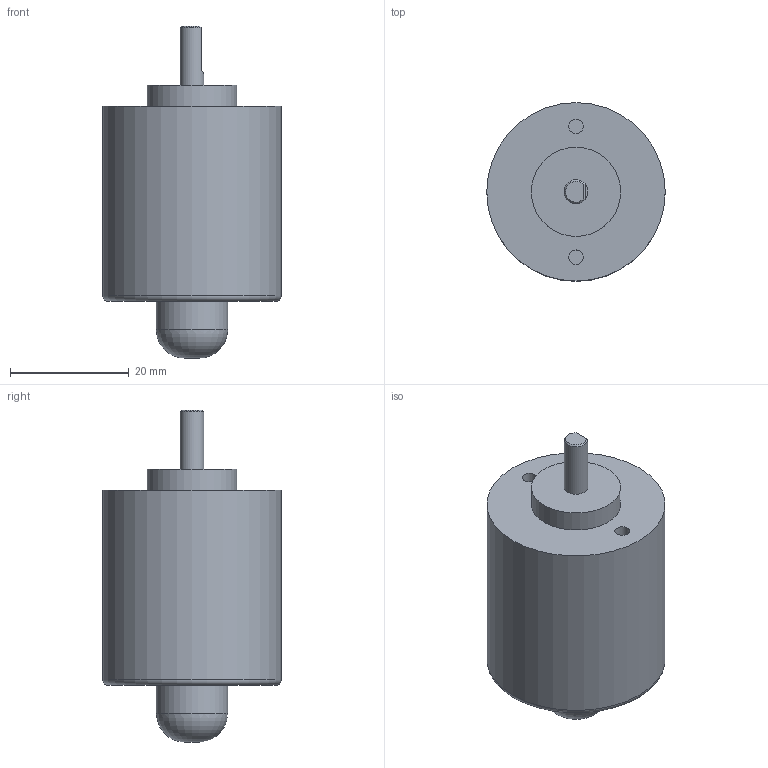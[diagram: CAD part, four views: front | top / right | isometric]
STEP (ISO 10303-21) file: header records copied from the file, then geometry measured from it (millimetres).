
FILE_DESCRIPTION(/* description */ ('Alibre Inc.'),/* implementation_level */ '2;1');
FILE_NAME(/* name */ 'export0',/* time_stamp */ '2013-07-10T13:52:17-06:00',/* author */ (''),/* organization */ (''),/* preprocessor_version */ 'ST-DEVELOPER v14',/* originating_system */ 'Alibre',/* authorisation */ '');
FILE_SCHEMA (('ALIBRE_SCHEMA','CONFIG_CONTROL_DESIGN'));
Length unit declared in the file: centimetre
Products named in the file (1): ID_1
Bounding box: 30 x 30 x 55.8 mm (x, y, z)
Volume: 24778.9 mm3; surface area: 5099.1 mm2
Topology: 1 solids, 1 shells, 20 faces, 35 edges, 22 vertices
Faces by surface type: plane 11, cylinder 6, torus 2, cone 1
Full cylindrical faces by diameter (mm): 2.459 x2, 4 x1, 12 x1, 15 x1, 30 x1
Entity records: 1335 total; most frequent: CARTESIAN_POINT 158, DIRECTION 96, PERSISTANTTOPOLOGYATTRIBUTE 57, ORIENTED_EDGE 52, AXIS2_PLACEMENT_3D 51, REFERENCEDEPENDENTUV 45, ENTITYHEADERPROPERTIES 34, EDGE_LOOP 33
